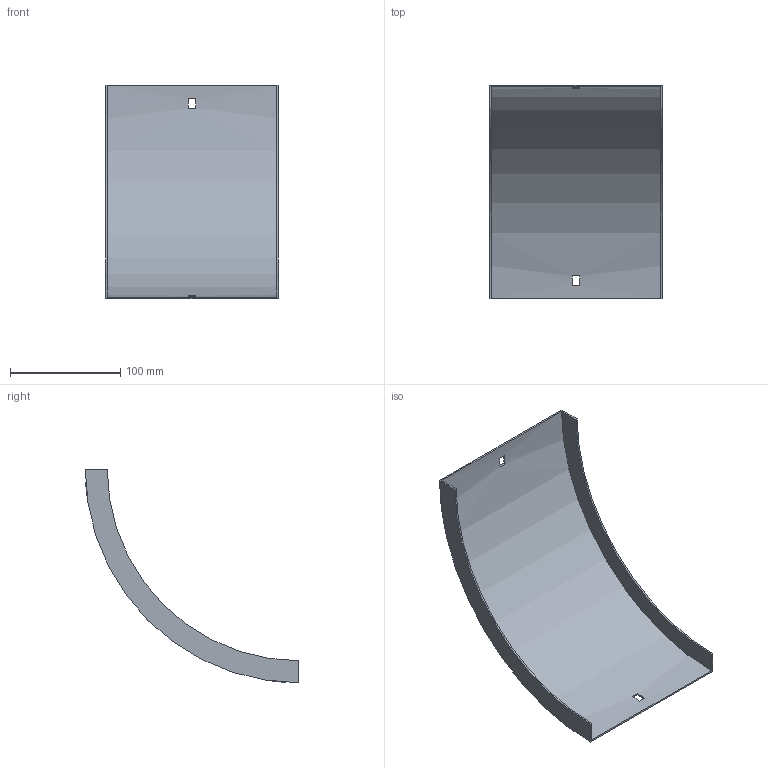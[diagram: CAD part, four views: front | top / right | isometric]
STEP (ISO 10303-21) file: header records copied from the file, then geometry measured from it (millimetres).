
FILE_DESCRIPTION (( 'STEP AP214' ), '1' );
FILE_NAME ('33N1I150.step', '2025-02-21T09:19:31', ( '' ), ( '' ), 'SwSTEP 2.0', 'SolidWorks 2023', '' );
FILE_SCHEMA (( 'AUTOMOTIVE_DESIGN' ));
Length unit declared in the file: millimetre
Products named in the file (1): 33N1I150
Bounding box: 157 x 194 x 194 mm (x, y, z)
Volume: 87287 mm3; surface area: 117881.5 mm2
Topology: 1 solids, 1 shells, 18 faces, 48 edges, 32 vertices
Faces by surface type: plane 14, cylinder 4
Entity records: 599 total; most frequent: DIRECTION 102, CARTESIAN_POINT 99, ORIENTED_EDGE 96, EDGE_CURVE 48, AXIS2_PLACEMENT_3D 35, VERTEX_POINT 32, LINE 32, VECTOR 32
